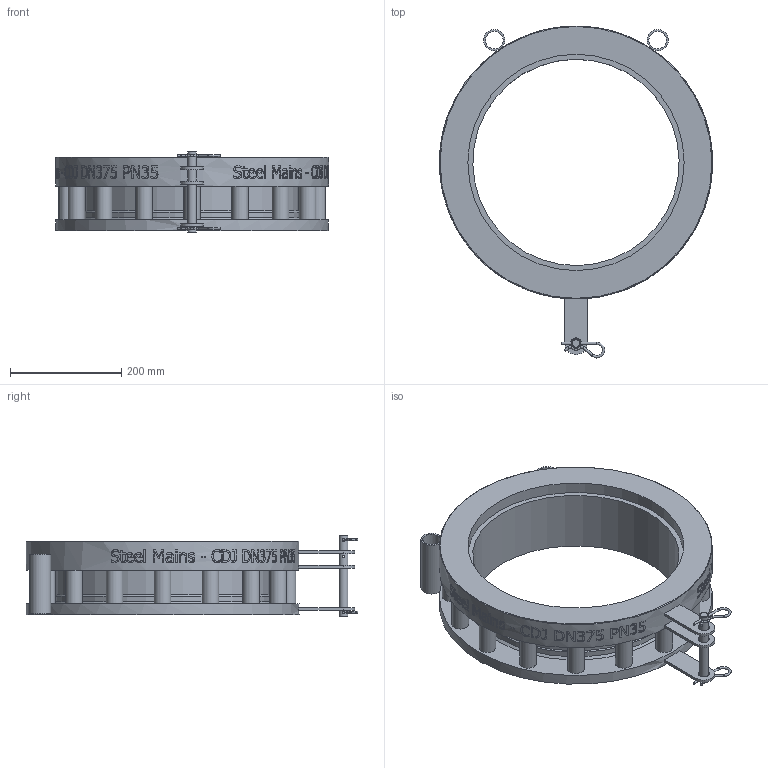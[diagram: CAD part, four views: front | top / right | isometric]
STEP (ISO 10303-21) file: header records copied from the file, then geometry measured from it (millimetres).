
FILE_DESCRIPTION(/* description */ (''),/* implementation_level */ '2;1');
FILE_NAME(/* name */ 'C:\Vault\Designs\Somerton\196\196-34 Models\Marketing Files\SteelMains - CDJ DN375 PN35 - (196-34T rev B).stp',/* time_stamp */ '2025-09-29T09:51:11+10:00',/* author */ ('Sam.Cavallaro'),/* organization */ (''),/* preprocessor_version */ 'ST-DEVELOPER v18.1',/* originating_system */ 'Autodesk Inventor 2021',/* authorisation */ '');
FILE_SCHEMA (('AUTOMOTIVE_DESIGN { 1 0 10303 214 3 1 1 }'));
Length unit declared in the file: millimetre
Products named in the file (1): SPS_ENG-084790
Bounding box: 491 x 597 x 146 mm (x, y, z)
Volume: 6903655.9 mm3; surface area: 798668.6 mm2
Topology: 6 solids, 6 shells, 862 faces, 2366 edges, 1578 vertices
Faces by surface type: bspline 408, plane 333, cylinder 108, torus 8, cone 5
Full cylindrical faces by diameter (mm): 4 x10, 5 x3, 16 x1, 20 x3, 30 x16, 31.6 x2, 38.1 x2, 371 x1, 383 x1, 387 x1, 389 x1, 491 x1
Entity records: 38080 total; most frequent: CARTESIAN_POINT 18255, ORIENTED_EDGE 4738, DIRECTION 2872, EDGE_CURVE 2369, VERTEX_POINT 1581, LINE 1106, VECTOR 1106, EDGE_LOOP 974
